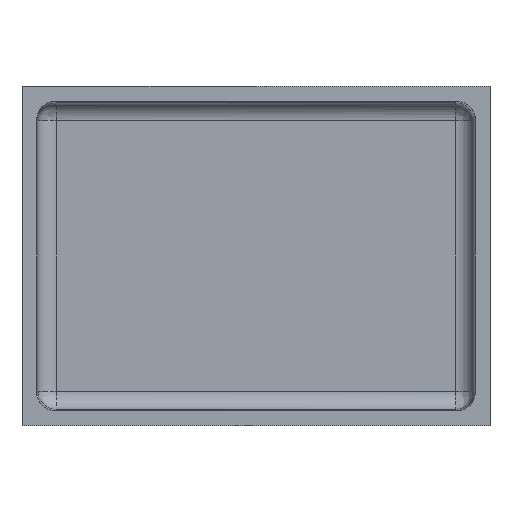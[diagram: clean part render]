
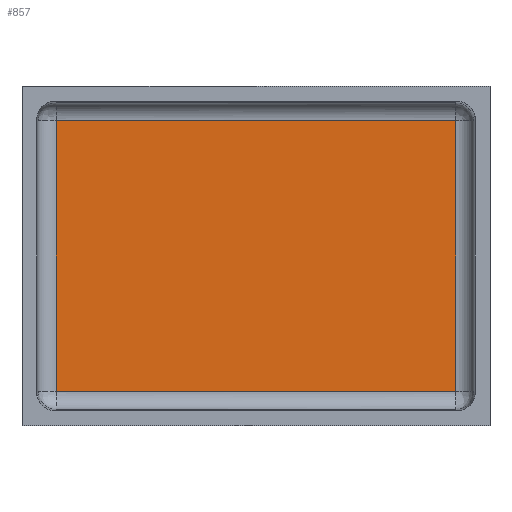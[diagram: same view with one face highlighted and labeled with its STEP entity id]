
A CAD part, front view. The second image highlights one B-rep face of the part: STEP entity #857.
In plain terms, the highlighted planar face has unit normal (0, -1, 0).
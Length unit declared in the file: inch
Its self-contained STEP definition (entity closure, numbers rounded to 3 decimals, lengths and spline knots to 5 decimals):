
#22 = CARTESIAN_POINT ( 'NONE',  ( -6.77131, 1.7859, -4.58285 ) ) ;
#58 = ORIENTED_EDGE ( 'NONE', *, *, #1681, .F. ) ;
#110 = CARTESIAN_POINT ( 'NONE',  ( -7.6446, 1.7859, 4.58285 ) ) ;
#118 = DIRECTION ( 'NONE',  ( 0., 1., 0. ) ) ;
#119 = ORIENTED_EDGE ( 'NONE', *, *, #273, .F. ) ;
#166 = DIRECTION ( 'NONE',  ( -1., 0., 0. ) ) ;
#173 = VECTOR ( 'NONE', #924, 39.37008 ) ;
#223 = AXIS2_PLACEMENT_3D ( 'NONE', #401, #118, #1462 ) ;
#273 = EDGE_CURVE ( 'NONE', #1305, #1594, #1558, .T. ) ;
#283 = VERTEX_POINT ( 'NONE', #1461 ) ;
#307 = EDGE_CURVE ( 'NONE', #1594, #283, #1224, .T. ) ;
#401 = CARTESIAN_POINT ( 'NONE',  ( -7.6446, 1.7859, 5.45886 ) ) ;
#540 = LINE ( 'NONE', #1060, #940 ) ;
#592 = ORIENTED_EDGE ( 'NONE', *, *, #307, .F. ) ;
#598 = EDGE_LOOP ( 'NONE', ( #592, #119, #638, #58 ) ) ;
#625 = CARTESIAN_POINT ( 'NONE',  ( -6.77131, 1.7859, 4.58285 ) ) ;
#638 = ORIENTED_EDGE ( 'NONE', *, *, #1353, .F. ) ;
#774 = CARTESIAN_POINT ( 'NONE',  ( 6.77131, 1.7859, 4.58285 ) ) ;
#857 = ADVANCED_FACE ( 'NONE', ( #1437 ), #1000, .F. ) ;
#924 = DIRECTION ( 'NONE',  ( 0., 0., -1. ) ) ;
#940 = VECTOR ( 'NONE', #166, 39.37008 ) ;
#978 = DIRECTION ( 'NONE',  ( 0., 0., 1. ) ) ;
#1000 = PLANE ( 'NONE',  #223 ) ;
#1060 = CARTESIAN_POINT ( 'NONE',  ( -7.6446, 1.7859, -4.58285 ) ) ;
#1075 = DIRECTION ( 'NONE',  ( 1., 0., 0. ) ) ;
#1104 = VECTOR ( 'NONE', #1075, 39.37008 ) ;
#1114 = CARTESIAN_POINT ( 'NONE',  ( -6.77131, 1.7859, 5.45886 ) ) ;
#1224 = LINE ( 'NONE', #1368, #173 ) ;
#1253 = LINE ( 'NONE', #1114, #1338 ) ;
#1305 = VERTEX_POINT ( 'NONE', #625 ) ;
#1338 = VECTOR ( 'NONE', #978, 39.37008 ) ;
#1353 = EDGE_CURVE ( 'NONE', #1659, #1305, #1253, .T. ) ;
#1368 = CARTESIAN_POINT ( 'NONE',  ( 6.77131, 1.7859, 5.45886 ) ) ;
#1437 = FACE_OUTER_BOUND ( 'NONE', #598, .T. ) ;
#1461 = CARTESIAN_POINT ( 'NONE',  ( 6.77131, 1.7859, -4.58285 ) ) ;
#1462 = DIRECTION ( 'NONE',  ( 0., 0., 1. ) ) ;
#1558 = LINE ( 'NONE', #110, #1104 ) ;
#1594 = VERTEX_POINT ( 'NONE', #774 ) ;
#1659 = VERTEX_POINT ( 'NONE', #22 ) ;
#1681 = EDGE_CURVE ( 'NONE', #283, #1659, #540, .T. ) ;
